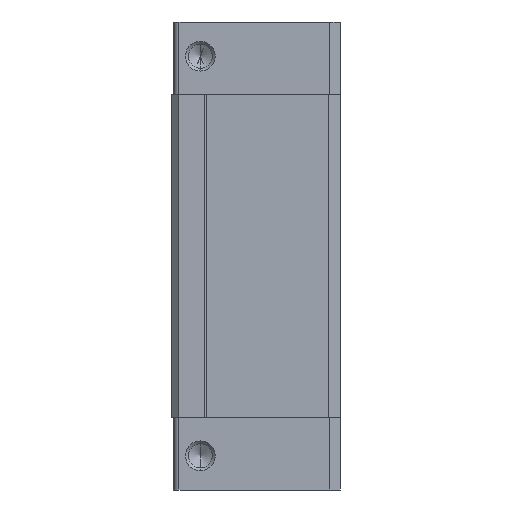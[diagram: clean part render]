
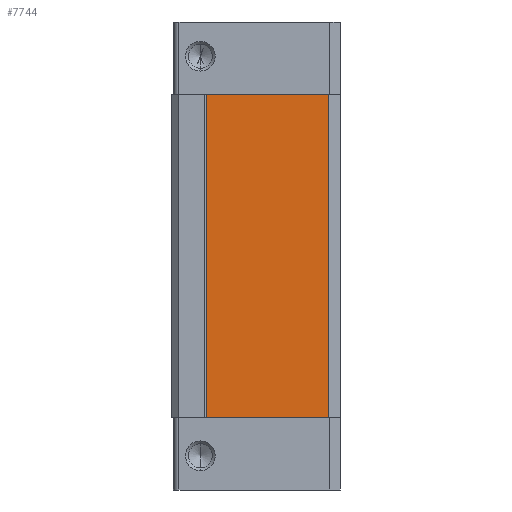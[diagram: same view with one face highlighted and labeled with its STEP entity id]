
A CAD part, left-side view. The second image highlights one B-rep face of the part: STEP entity #7744.
In plain terms, the highlighted planar face has unit normal (-1, 0, 0).
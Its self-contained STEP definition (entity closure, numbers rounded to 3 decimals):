
#4145 = DIRECTION ( 'NONE',  ( 0., -1., 0. ) ) ;
#4203 = VECTOR ( 'NONE', #4145, 1000. ) ;
#4204 = CARTESIAN_POINT ( 'NONE',  ( -29.6, -26.7, 33.7 ) ) ;
#4205 = LINE ( 'NONE', #4204, #4203 ) ;
#4488 = AXIS2_PLACEMENT_3D ( 'NONE', #4498, #4497, #4496 ) ;
#4489 = PLANE ( 'NONE',  #4488 ) ;
#4492 = DIRECTION ( 'NONE',  ( 0., -1., 0. ) ) ;
#4493 = VECTOR ( 'NONE', #4492, 1000. ) ;
#4494 = CARTESIAN_POINT ( 'NONE',  ( -29.6, -26.7, -33.7 ) ) ;
#4495 = LINE ( 'NONE', #4494, #4493 ) ;
#4496 = DIRECTION ( 'NONE',  ( 0., 1., 0. ) ) ;
#4497 = DIRECTION ( 'NONE',  ( 1., 0., 0. ) ) ;
#4498 = CARTESIAN_POINT ( 'NONE',  ( -29.6, -26.7, 33.7 ) ) ;
#4521 = FACE_OUTER_BOUND ( 'NONE', #7745, .T. ) ;
#6637 = CARTESIAN_POINT ( 'NONE',  ( -29.6, -26.7, 33.7 ) ) ;
#6638 = DIRECTION ( 'NONE',  ( 0., 0., -1. ) ) ;
#6639 = VECTOR ( 'NONE', #6638, 1000. ) ;
#6640 = CARTESIAN_POINT ( 'NONE',  ( -29.6, -26.7, 33.7 ) ) ;
#6641 = LINE ( 'NONE', #6640, #6639 ) ;
#6642 = CARTESIAN_POINT ( 'NONE',  ( -29.6, -26.7, -33.7 ) ) ;
#6648 = LINE ( 'NONE', #6659, #6658 ) ;
#6649 = CARTESIAN_POINT ( 'NONE',  ( -29.6, -1.35, -33.7 ) ) ;
#6656 = CARTESIAN_POINT ( 'NONE',  ( -29.6, -1.35, 33.7 ) ) ;
#6657 = DIRECTION ( 'NONE',  ( 0., 0., -1. ) ) ;
#6658 = VECTOR ( 'NONE', #6657, 1000. ) ;
#6659 = CARTESIAN_POINT ( 'NONE',  ( -29.6, -1.35, 33.7 ) ) ;
#7560 = VERTEX_POINT ( 'NONE', #6649 ) ;
#7562 = EDGE_CURVE ( 'NONE', #7563, #7560, #6648, .T. ) ;
#7563 = VERTEX_POINT ( 'NONE', #6656 ) ;
#7597 = VERTEX_POINT ( 'NONE', #6642 ) ;
#7598 = ORIENTED_EDGE ( 'NONE', *, *, #7599, .F. ) ;
#7599 = EDGE_CURVE ( 'NONE', #7600, #7597, #6641, .T. ) ;
#7600 = VERTEX_POINT ( 'NONE', #6637 ) ;
#7708 = ORIENTED_EDGE ( 'NONE', *, *, #7709, .F. ) ;
#7709 = EDGE_CURVE ( 'NONE', #7563, #7600, #4205, .T. ) ;
#7710 = ORIENTED_EDGE ( 'NONE', *, *, #7562, .T. ) ;
#7744 = ADVANCED_FACE ( 'NONE', ( #4521 ), #4489, .F. ) ;
#7745 = EDGE_LOOP ( 'NONE', ( #7746, #7598, #7708, #7710 ) ) ;
#7746 = ORIENTED_EDGE ( 'NONE', *, *, #7747, .T. ) ;
#7747 = EDGE_CURVE ( 'NONE', #7560, #7597, #4495, .T. ) ;
